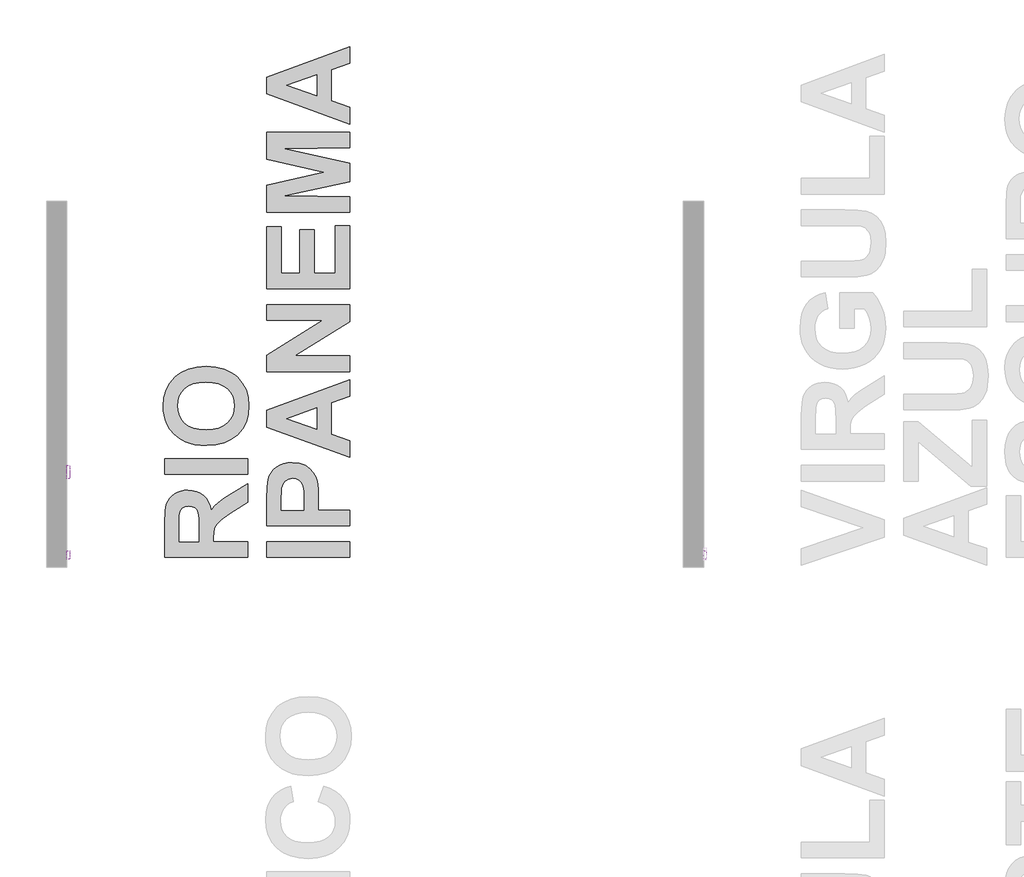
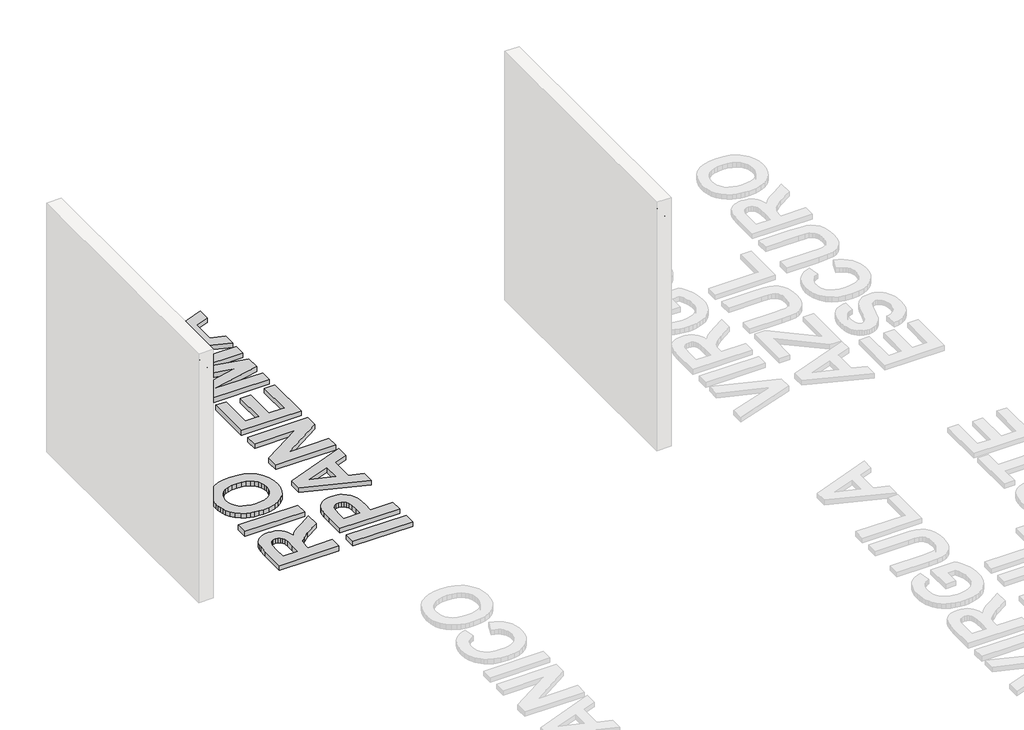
# One storey, part 9 of 12: 4 proxies.
"""IFC4 building model written with IfcOpenShell, lengths in millimetres."""

from ifc_helpers import new_model, si_unit, frame, origin, origin_with_axes, place, context, project, spatial, polyline, outline, extrude, element, save

model = new_model("IFC4")

# Units and contexts
model_context = context("Model", 3, world=origin())
ifc_project = project(units=[si_unit("LENGTHUNIT", "METRE", prefix="MILLI")], contexts=[model_context])

# Site, building, storey
site = spatial("IfcSite", under=ifc_project)
building = spatial("IfcBuilding", under=site)
storey = spatial("IfcBuildingStorey", under=building, Name="PORTOBELLO - SHOWROOM", Elevation=0.0)

# Proxies
placement = place(None, origin())
element("IfcBuildingElementProxy", 1, Name="10mm Arial", ObjectType="10mm Arial", at=placement, inside=storey, context=model_context, shape_type="SweptSolid", body=[
    extrude(outline(polyline([(1635.0884642, 2548.8308244), (1635.0884642, 2649.2871345), (1678.3759123, 2649.2871345), (1698.474532, 2646.5770705), (1709.4619409, 2636.9876132), (1713.5699565, 2621.7940868), (1711.8685023, 2611.8980611), (1706.7641396, 2603.6942926), (1698.1035843, 2597.679422), (1685.7335522, 2594.3500899), (1692.8704629, 2588.9790128), (1703.0485314, 2576.054092), (1719.7994249, 2548.8308244), (1705.2067725, 2548.8308244), (1692.1346989, 2569.6529453), (1682.6923944, 2583.4362574), (1676.0582557, 2589.9477687), (1670.0863047, 2592.3390017), (1662.8022412, 2592.7804601), (1647.645503, 2592.7804601), (1647.645503, 2548.8308244), (1635.0884642, 2548.8308244)]), holes=[polyline([(1647.645503, 2605.3374988), (1675.7516874, 2605.3374988), (1690.0868225, 2607.1155952), (1698.2292773, 2612.8055033), (1701.0129177, 2621.3281029), (1695.7031543, 2632.3890882), (1678.9154725, 2636.7300958), (1647.645503, 2636.7300958), (1647.645503, 2605.3374988)])]), frame((3902.9163978, 0.0, 0.0), z_axis=(1.0, 0.0, 0.0), x_axis=(0.0, 1.0, 0.0)), (0.0, 0.0, 1.0), 20.0),
    extrude(outline(polyline([(3922.9163978, 1746.5321833), (3922.9163978, 1733.9751445), (3902.9163978, 1733.9751445), (3902.9163978, 1746.5321833), (3922.9163978, 1746.5321833)])), frame((0.0, 0.0, 2636.7300958), z_axis=(0.0, 0.0, 1.0), x_axis=(1.0, 0.0, 0.0)), (0.0, 0.0, 1.0), 12.5570388),
    extrude(outline(polyline([(3922.9163978, 1746.5321833), (3922.9163978, 1733.9751445), (3902.9163978, 1733.9751445), (3902.9163978, 1746.5321833), (3922.9163978, 1746.5321833)])), frame((0.0, 0.0, 2548.8308244), z_axis=(0.0, 0.0, 1.0), x_axis=(1.0, 0.0, 0.0)), (0.0, 0.0, 1.0), 73.7726028),
    extrude(outline(polyline([(1762.2284817, 2585.7171258), (1764.9446771, 2603.5042202), (1773.0932633, 2616.0060767), (1783.1609672, 2622.1313119), (1795.215234, 2624.173057), (1808.4068692, 2621.6867878), (1818.9436226, 2614.2279804), (1825.8506071, 2602.3852458), (1828.1529353, 2586.7471954), (1824.0817078, 2564.4044955), (1812.2236449, 2551.7616176), (1795.215234, 2547.2611945), (1781.8641832, 2549.7382666), (1771.3396925, 2557.1694829), (1764.5062844, 2569.2605379), (1762.2284817, 2585.7171258)]), holes=[polyline([(1774.7855205, 2585.7416512), (1776.2386544, 2574.3771633), (1780.598056, 2566.2806937), (1787.1586183, 2561.4338484), (1795.215234, 2559.8182333), (1803.2350615, 2561.4430455), (1809.783361, 2566.3174819), (1814.1427626, 2574.5212504), (1815.5958965, 2586.1340587), (1814.1335656, 2597.1674529), (1809.7465728, 2605.1535578), (1803.1890762, 2610.0004031), (1795.215234, 2611.6160182), (1787.1586183, 2610.0065345), (1780.598056, 2605.1780833), (1776.2386544, 2597.1000078), (1774.7855205, 2585.7416512)])]), frame((3902.9163978, 0.0, 0.0), z_axis=(1.0, 0.0, 0.0), x_axis=(0.0, 1.0, 0.0)), (0.0, 0.0, 1.0), 20.0),
    extrude(outline(polyline([(3922.9163978, 1897.2166485), (3922.9163978, 1884.6596097), (3902.9163978, 1884.6596097), (3902.9163978, 1897.2166485), (3922.9163978, 1897.2166485)])), frame((0.0, 0.0, 2548.8308244), z_axis=(0.0, 0.0, 1.0), x_axis=(1.0, 0.0, 0.0)), (0.0, 0.0, 1.0), 100.4563101),
    extrude(outline(polyline([(1920.7610962, 2520.5774872), (1920.7610962, 2622.6034272), (1933.3181349, 2622.6034272), (1933.3181349, 2610.291643), (1942.00015, 2620.7027035), (1953.7233229, 2624.173057), (1969.6403506, 2619.3170147), (1980.0391483, 2605.6318044), (1983.54629, 2586.2812115), (1979.5854272, 2565.9373372), (1968.0829835, 2552.0804487), (1952.202744, 2547.2611945), (1941.2766488, 2550.4862934), (1933.3181349, 2558.6410109), (1933.3181349, 2520.5774872), (1920.7610962, 2520.5774872)]), holes=[polyline([(1933.3181349, 2585.1285146), (1934.6762326, 2573.8713255), (1938.7505257, 2565.9986508), (1944.7623307, 2561.3633377), (1951.9329639, 2559.8182333), (1959.2200931, 2561.41852), (1965.3851822, 2566.21938), (1969.588234, 2574.3802289), (1970.9892513, 2586.0604823), (1969.6219565, 2597.2563577), (1965.5200723, 2605.239397), (1959.5174644, 2610.0218629), (1952.4479987, 2611.6160182), (1945.3509419, 2609.9206954), (1939.1184077, 2604.8347268), (1934.7682031, 2596.517528), (1933.3181349, 2585.1285146)])]), frame((3902.9163978, 0.0, 0.0), z_axis=(1.0, 0.0, 0.0), x_axis=(0.0, 1.0, 0.0)), (0.0, 0.0, 1.0), 20.0),
    extrude(outline(polyline([(2044.761854, 2558.2486035), (2032.58496, 2549.7382666), (2019.1327417, 2547.2611945), (2008.6389078, 2548.7511166), (2000.8980575, 2553.2208829), (1996.1247886, 2560.0083057), (1994.5336989, 2568.4511975), (1996.9371946, 2578.3840113), (2003.2525022, 2585.5944984), (2012.0448819, 2589.7147768), (2022.9096635, 2591.6032377), (2044.6882776, 2595.9197198), (2044.761854, 2598.7156229), (2041.3037633, 2607.9862492), (2027.4223493, 2611.6160182), (2014.7181577, 2609.2002598), (2008.6603676, 2600.6286093), (1996.1033288, 2602.1982392), (2001.5357196, 2614.4609723), (2012.4740776, 2621.646934), (2029.0410301, 2624.173057), (2044.259082, 2621.9412396), (2052.8552579, 2616.3371705), (2056.7057561, 2607.8145709), (2057.3188928, 2596.827162), (2057.3188928, 2581.20444), (2057.9565549, 2559.3890376), (2060.4581525, 2548.8308244), (2047.9011137, 2548.8308244), (2044.761854, 2558.2486035)]), holes=[polyline([(2044.761854, 2583.362681), (2024.5038188, 2579.5121828), (2013.7003509, 2577.4765691), (2008.8075204, 2574.1656311), (2007.0907377, 2569.3341142), (2010.8308713, 2562.5405601), (2021.8060175, 2559.8182333), (2034.5102091, 2562.8226029), (2042.7017148, 2570.0944037), (2044.6882776, 2579.8064884), (2044.761854, 2583.362681)])]), frame((3902.9163978, 0.0, 0.0), z_axis=(1.0, 0.0, 0.0), x_axis=(0.0, 1.0, 0.0)), (0.0, 0.0, 1.0), 20.0),
    extrude(outline(polyline([(2074.5848211, 2548.8308244), (2074.5848211, 2622.6034272), (2087.1418599, 2622.6034272), (2087.1418599, 2612.3027313), (2096.7435799, 2621.2054756), (2109.8524417, 2624.173057), (2121.7105047, 2621.781824), (2129.8039086, 2615.5033046), (2133.5685677, 2606.2694666), (2134.2307552, 2594.1293607), (2134.2307552, 2548.8308244), (2121.6737165, 2548.8308244), (2121.6737165, 2592.4371035), (2120.226714, 2603.5471398), (2115.1131542, 2609.420989), (2106.4924528, 2611.6160182), (2092.8685563, 2606.6863995), (2088.573534, 2599.5433574), (2087.1418599, 2587.9734687), (2087.1418599, 2548.8308244), (2074.5848211, 2548.8308244)])), frame((3902.9163978, 0.0, 0.0), z_axis=(1.0, 0.0, 0.0), x_axis=(0.0, 1.0, 0.0)), (0.0, 0.0, 1.0), 20.0),
    extrude(outline(polyline([(2203.1473157, 2570.8056422), (2215.4590998, 2569.2360124), (2211.0230561, 2559.9592547), (2203.9443933, 2553.0246791), (2194.3825271, 2548.7020657), (2182.496873, 2547.2611945), (2167.7631991, 2549.7474637), (2156.4263023, 2557.2062711), (2149.1974211, 2569.1532389), (2146.787794, 2585.1039891), (2149.2219465, 2601.5912339), (2156.5244042, 2613.9214121), (2167.7080168, 2621.6101458), (2181.7856345, 2624.173057), (2195.4248595, 2621.6162771), (2206.3233636, 2613.9459375), (2213.4694713, 2601.6402848), (2215.8515072, 2585.1775655), (2215.7779308, 2581.7930512), (2159.3448328, 2581.7930512), (2161.5184022, 2572.3936662), (2166.5675826, 2565.483616), (2173.8547118, 2561.234579), (2182.7421277, 2559.8182333), (2195.0539118, 2562.4424582), (2203.1473157, 2570.8056422)]), holes=[polyline([(2159.3448328, 2594.3500899), (2203.2944685, 2594.3500899), (2198.2667479, 2605.7299063), (2190.9458962, 2610.1444902), (2181.7365836, 2611.6160182), (2166.273277, 2606.9193914), (2161.4080376, 2601.4287526), (2159.3448328, 2594.3500899)])]), frame((3902.9163978, 0.0, 0.0), z_axis=(1.0, 0.0, 0.0), x_axis=(0.0, 1.0, 0.0)), (0.0, 0.0, 1.0), 20.0),
    extrude(outline(polyline([(2228.408546, 2548.8308244), (2228.408546, 2622.6034272), (2240.9655848, 2622.6034272), (2240.9655848, 2610.4633213), (2249.5985489, 2620.4083979), (2261.8858076, 2624.173057), (2274.4673718, 2620.3348215), (2281.3835533, 2609.5804045), (2291.1814771, 2620.5248939), (2303.5545749, 2624.173057), (2312.9938138, 2622.6555438), (2319.9743746, 2618.1030041), (2324.287791, 2610.3928106), (2325.7255965, 2599.402336), (2325.7255965, 2548.8308244), (2313.1685577, 2548.8308244), (2313.1685577, 2594.0067334), (2312.003598, 2604.4913703), (2307.7852178, 2609.6539809), (2300.6115189, 2611.6160182), (2288.2629466, 2606.5882976), (2284.5749296, 2600.0461295), (2283.3455906, 2590.4750662), (2283.3455906, 2548.8308244), (2270.7885519, 2548.8308244), (2270.7885519, 2595.404685), (2267.8822841, 2607.5693163), (2258.3541404, 2611.6160182), (2249.0589887, 2608.9182169), (2242.8785712, 2601.0210168), (2240.9655848, 2586.0359568), (2240.9655848, 2548.8308244), (2228.408546, 2548.8308244)])), frame((3902.9163978, 0.0, 0.0), z_axis=(1.0, 0.0, 0.0), x_axis=(0.0, 1.0, 0.0)), (0.0, 0.0, 1.0), 20.0),
    extrude(outline(polyline([(2391.65005, 2558.2486035), (2379.473156, 2549.7382666), (2366.0209377, 2547.2611945), (2355.5271038, 2548.7511166), (2347.7862534, 2553.2208829), (2343.0129846, 2560.0083057), (2341.4218949, 2568.4511975), (2343.8253906, 2578.3840113), (2350.1406982, 2585.5944984), (2358.9330779, 2589.7147768), (2369.7978595, 2591.6032377), (2391.5764736, 2595.9197198), (2391.65005, 2598.7156229), (2388.1919592, 2607.9862492), (2374.3105453, 2611.6160182), (2361.6063537, 2609.2002598), (2355.5485635, 2600.6286093), (2342.9915248, 2602.1982392), (2348.4239156, 2614.4609723), (2359.3622736, 2621.646934), (2375.9292261, 2624.173057), (2391.1472779, 2621.9412396), (2399.7434539, 2616.3371705), (2403.5939521, 2607.8145709), (2404.2070888, 2596.827162), (2404.2070888, 2581.20444), (2404.8447509, 2559.3890376), (2407.3463485, 2548.8308244), (2394.7893097, 2548.8308244), (2391.65005, 2558.2486035)]), holes=[polyline([(2391.65005, 2583.362681), (2371.3920148, 2579.5121828), (2360.5885469, 2577.4765691), (2355.6957163, 2574.1656311), (2353.9789337, 2569.3341142), (2357.7190673, 2562.5405601), (2368.6942135, 2559.8182333), (2381.3984051, 2562.8226029), (2389.5899108, 2570.0944037), (2391.5764736, 2579.8064884), (2391.65005, 2583.362681)])]), frame((3902.9163978, 0.0, 0.0), z_axis=(1.0, 0.0, 0.0), x_axis=(0.0, 1.0, 0.0)), (0.0, 0.0, 1.0), 20.0),
])
element("IfcBuildingElementProxy", 2, Name="10mm Arial Narrow", ObjectType="10mm Arial Narrow", at=placement, inside=storey, context=model_context, shape_type="SweptSolid", body=[
    extrude(outline(polyline([(1632.2235233, 2398.8308244), (1632.2235233, 2499.5494281), (1663.520408, 2499.5494281), (1679.8161095, 2497.6711074), (1691.2890956, 2488.1906642), (1695.5787741, 2471.1715554), (1693.7924657, 2459.0957299), (1688.4335405, 2449.4693361), (1678.6897516, 2443.1680777), (1663.7488524, 2441.0676582), (1641.970485, 2441.0676582), (1641.970485, 2398.8308244), (1632.2235233, 2398.8308244)]), holes=[polyline([(1641.970485, 2452.4391135), (1664.9418399, 2452.4391135), (1680.8060353, 2456.9699277), (1685.8318124, 2470.6385184), (1683.3569979, 2480.8042949), (1677.3793691, 2486.6042447), (1664.7133955, 2488.1779729), (1641.970485, 2488.1779729), (1641.970485, 2452.4391135)])]), frame((3902.9163978, 0.0, 0.0), z_axis=(1.0, 0.0, 0.0), x_axis=(0.0, 1.0, 0.0)), (0.0, 0.0, 1.0), 20.0),
    extrude(outline(polyline([(1703.7012421, 2435.3819306), (1705.655711, 2451.9727061), (1711.5191176, 2463.9247909), (1720.3776843, 2471.1493455), (1731.3176335, 2473.5575304), (1742.130669, 2471.1493455), (1751.0146185, 2463.9247909), (1756.9541732, 2452.1630765), (1758.9340248, 2436.143412), (1756.9890745, 2418.9815254), (1751.1542234, 2406.8390702), (1742.3051752, 2399.6145156), (1731.3176335, 2397.2063308), (1720.4570053, 2399.6208613), (1711.5825744, 2406.8644529), (1705.6715752, 2418.8228834), (1703.7012421, 2435.3819306)]), holes=[polyline([(1713.4482038, 2435.4073133), (1714.7522406, 2422.8555619), (1718.6643512, 2413.9843038), (1724.505548, 2408.7110453), (1731.5968433, 2406.9532924), (1738.3169165, 2408.7269095), (1744.0089898, 2414.0477606), (1747.8925448, 2422.9348829), (1749.1870632, 2435.4073133), (1747.8830263, 2447.9209906), (1743.9709157, 2456.7795573), (1738.129719, 2462.0528159), (1731.0384236, 2463.8105687), (1724.2707579, 2462.0432974), (1718.5882031, 2456.7414833), (1714.7332036, 2447.873398), (1713.4482038, 2435.4073133)])]), frame((3902.9163978, 0.0, 0.0), z_axis=(1.0, 0.0, 0.0), x_axis=(0.0, 1.0, 0.0)), (0.0, 0.0, 1.0), 20.0),
    extrude(outline(polyline([(1830.4117436, 2406.9532924), (1832.0362372, 2397.2063308), (1824.6752505, 2397.2063308), (1816.4004862, 2399.3257873), (1812.0854251, 2405.1257371), (1810.9178203, 2419.7715623), (1810.9178203, 2462.1860751), (1802.7953522, 2462.1860751), (1802.7953522, 2465.4350624), (1801.1708586, 2460.5615815), (1793.6068103, 2462.1860751), (1787.5276506, 2459.8635569), (1783.6567869, 2453.3782738), (1781.6769353, 2437.9709673), (1781.6769353, 2398.8308244), (1771.9299737, 2398.8308244), (1771.9299737, 2471.9330368), (1781.6769353, 2471.9330368), (1781.6769353, 2462.2368406), (1787.9210826, 2471.3238517), (1794.3175262, 2473.5575304), (1802.7953522, 2471.9330368), (1810.9178203, 2471.9330368), (1810.9178203, 2488.1779729), (1820.6647819, 2496.3004409), (1820.6647819, 2471.9330368), (1830.4117436, 2471.9330368), (1830.4117436, 2462.1860751), (1820.6647819, 2462.1860751), (1820.6647819, 2417.5378836), (1821.5277942, 2409.5423291), (1826.1474479, 2406.9532924), (1830.4117436, 2406.9532924)])), frame((3902.9163978, 0.0, 0.0), z_axis=(1.0, 0.0, 0.0), x_axis=(0.0, 1.0, 0.0)), (0.0, 0.0, 1.0), 20.0),
    extrude(outline(polyline([(1836.909718, 2435.3819306), (1838.8641869, 2451.9727061), (1844.7275935, 2463.9247909), (1853.5861602, 2471.1493455), (1864.5261094, 2473.5575304), (1875.339145, 2471.1493455), (1884.2230944, 2463.9247909), (1890.1626492, 2452.1630765), (1892.1425007, 2436.143412), (1890.1975504, 2418.9815254), (1884.3626993, 2406.8390702), (1875.5136511, 2399.6145156), (1864.5261094, 2397.2063308), (1853.6654812, 2399.6208613), (1844.7910503, 2406.8644529), (1838.8800511, 2418.8228834), (1836.909718, 2435.3819306)]), holes=[polyline([(1846.6566797, 2435.4073133), (1847.9607166, 2422.8555619), (1851.8728271, 2413.9843038), (1857.7140239, 2408.7110453), (1864.8053192, 2406.9532924), (1871.5253924, 2408.7269095), (1877.2174657, 2414.0477606), (1881.1010207, 2422.9348829), (1882.3955391, 2435.4073133), (1881.0915022, 2447.9209906), (1877.1793916, 2456.7795573), (1871.3381949, 2462.0528159), (1864.2468995, 2463.8105687), (1857.4792338, 2462.0432974), (1851.796679, 2456.7414833), (1847.9416795, 2447.873398), (1846.6566797, 2435.4073133)])]), frame((3902.9163978, 0.0, 0.0), z_axis=(1.0, 0.0, 0.0), x_axis=(0.0, 1.0, 0.0)), (0.0, 0.0, 1.0), 20.0),
    extrude(outline(polyline([(1914.8854113, 2398.8308244), (1905.1384496, 2398.8308244), (1905.1384496, 2499.5494281), (1914.8854113, 2499.5494281), (1914.8854113, 2464.140544), (1922.284472, 2471.2223208), (1931.4857053, 2473.5575304), (1944.367432, 2469.3566915), (1953.6448135, 2456.6272611), (1957.1222451, 2435.9403503), (1955.1899861, 2419.4860068), (1949.3932091, 2407.2832677), (1941.0200868, 2399.725565), (1931.3587918, 2397.2063308), (1922.0179535, 2399.8207502), (1914.8854113, 2407.5878602), (1914.8854113, 2398.8308244)]), holes=[polyline([(1914.8854113, 2435.9403503), (1916.9667937, 2418.692797), (1922.855583, 2409.9611439), (1931.3080263, 2406.9532924), (1937.2507539, 2408.7427737), (1942.4891113, 2414.1112174), (1947.3752834, 2435.5342269), (1942.6667902, 2456.9699277), (1937.4220872, 2462.1004085), (1931.1049646, 2463.8105687), (1925.1273358, 2462.0210875), (1919.8350402, 2456.6526438), (1914.8854113, 2435.9403503)])]), frame((3902.9163978, 0.0, 0.0), z_axis=(1.0, 0.0, 0.0), x_axis=(0.0, 1.0, 0.0)), (0.0, 0.0, 1.0), 20.0),
    extrude(outline(polyline([(2009.1060406, 2421.5737349), (2018.8530022, 2419.9492413), (2015.1534719, 2410.0626747), (2009.334485, 2402.9428238), (2001.6308317, 2398.640454), (1992.2773021, 2397.2063308), (1980.6837481, 2399.6208613), (1971.5396259, 2406.8644529), (1965.6000711, 2418.6705872), (1963.6202195, 2434.7727455), (1965.6095896, 2451.4396692), (1971.5776999, 2463.6201984), (1980.5917358, 2471.0731974), (1991.7188824, 2473.5575304), (2002.4018316, 2471.1588641), (2011.1493489, 2463.962865), (2016.9842, 2452.2233604), (2018.9291504, 2436.1941774), (2018.8530022, 2432.9451902), (1973.3671812, 2432.9451902), (1979.3701927, 2413.5020323), (1985.300229, 2408.5904774), (1992.4042157, 2406.9532924), (2002.5826834, 2410.608403), (2009.1060406, 2421.5737349)]), holes=[polyline([(1974.0271317, 2442.6921518), (2009.1060406, 2442.6921518), (2004.8417449, 2456.9572363), (1999.0164123, 2462.0972356), (1991.7950306, 2463.8105687), (1979.5859458, 2458.0994584), (1974.0271317, 2442.6921518)])]), frame((3902.9163978, 0.0, 0.0), z_axis=(1.0, 0.0, 0.0), x_axis=(0.0, 1.0, 0.0)), (0.0, 0.0, 1.0), 20.0),
    extrude(outline(polyline([(3922.9163978, 2041.5959128), (3922.9163978, 2031.8489511), (3902.9163978, 2031.8489511), (3902.9163978, 2041.5959128), (3922.9163978, 2041.5959128)])), frame((0.0, 0.0, 2398.8308244), z_axis=(0.0, 0.0, 1.0), x_axis=(1.0, 0.0, 0.0)), (0.0, 0.0, 1.0), 100.7186038),
    extrude(outline(polyline([(3922.9163978, 2067.5878105), (3922.9163978, 2057.8408488), (3902.9163978, 2057.8408488), (3902.9163978, 2067.5878105), (3922.9163978, 2067.5878105)])), frame((0.0, 0.0, 2398.8308244), z_axis=(0.0, 0.0, 1.0), x_axis=(1.0, 0.0, 0.0)), (0.0, 0.0, 1.0), 100.7186038),
    extrude(outline(polyline([(2078.9592658, 2435.3819306), (2080.9137346, 2451.9727061), (2086.7771413, 2463.9247909), (2095.635708, 2471.1493455), (2106.5756571, 2473.5575304), (2117.3886927, 2471.1493455), (2126.2726421, 2463.9247909), (2132.2121969, 2452.1630765), (2134.1920485, 2436.143412), (2132.2470981, 2418.9815254), (2126.412247, 2406.8390702), (2117.5631988, 2399.6145156), (2106.5756571, 2397.2063308), (2095.7150289, 2399.6208613), (2086.840598, 2406.8644529), (2080.9295988, 2418.8228834), (2078.9592658, 2435.3819306)]), holes=[polyline([(2088.7062274, 2435.4073133), (2090.0102643, 2422.8555619), (2093.9223749, 2413.9843038), (2099.7635716, 2408.7110453), (2106.854867, 2406.9532924), (2113.5749401, 2408.7269095), (2119.2670134, 2414.0477606), (2123.1505685, 2422.9348829), (2124.4450868, 2435.4073133), (2123.14105, 2447.9209906), (2119.2289394, 2456.7795573), (2113.3877426, 2462.0528159), (2106.2964473, 2463.8105687), (2099.5287815, 2462.0432974), (2093.8462267, 2456.7414833), (2089.9912272, 2447.873398), (2088.7062274, 2435.4073133)])]), frame((3902.9163978, 0.0, 0.0), z_axis=(1.0, 0.0, 0.0), x_axis=(0.0, 1.0, 0.0)), (0.0, 0.0, 1.0), 20.0),
])
element("IfcBuildingElementProxy", 3, Name="10mm Arial Narrow", ObjectType="10mm Arial Narrow", at=placement, inside=storey, context=model_context, shape_type="SweptSolid", body=[
    extrude(outline(polyline([(1632.2235233, 2398.8308244), (1632.2235233, 2499.5494281), (1663.520408, 2499.5494281), (1679.8161095, 2497.6711074), (1691.2890956, 2488.1906642), (1695.5787741, 2471.1715554), (1693.7924657, 2459.0957299), (1688.4335405, 2449.4693361), (1678.6897516, 2443.1680777), (1663.7488524, 2441.0676582), (1641.970485, 2441.0676582), (1641.970485, 2398.8308244), (1632.2235233, 2398.8308244)]), holes=[polyline([(1641.970485, 2452.4391135), (1664.9418399, 2452.4391135), (1680.8060353, 2456.9699277), (1685.8318124, 2470.6385184), (1683.3569979, 2480.8042949), (1677.3793691, 2486.6042447), (1664.7133955, 2488.1779729), (1641.970485, 2488.1779729), (1641.970485, 2452.4391135)])]), frame((8602.9163978, 0.0, 0.0), z_axis=(1.0, 0.0, 0.0), x_axis=(0.0, 1.0, 0.0)), (0.0, 0.0, 1.0), 20.0),
    extrude(outline(polyline([(1703.7012421, 2435.3819306), (1705.655711, 2451.9727061), (1711.5191176, 2463.9247909), (1720.3776843, 2471.1493455), (1731.3176335, 2473.5575304), (1742.130669, 2471.1493455), (1751.0146185, 2463.9247909), (1756.9541732, 2452.1630765), (1758.9340248, 2436.143412), (1756.9890745, 2418.9815254), (1751.1542234, 2406.8390702), (1742.3051752, 2399.6145156), (1731.3176335, 2397.2063308), (1720.4570053, 2399.6208613), (1711.5825744, 2406.8644529), (1705.6715752, 2418.8228834), (1703.7012421, 2435.3819306)]), holes=[polyline([(1713.4482038, 2435.4073133), (1714.7522406, 2422.8555619), (1718.6643512, 2413.9843038), (1724.505548, 2408.7110453), (1731.5968433, 2406.9532924), (1738.3169165, 2408.7269095), (1744.0089898, 2414.0477606), (1747.8925448, 2422.9348829), (1749.1870632, 2435.4073133), (1747.8830263, 2447.9209906), (1743.9709157, 2456.7795573), (1738.129719, 2462.0528159), (1731.0384236, 2463.8105687), (1724.2707579, 2462.0432974), (1718.5882031, 2456.7414833), (1714.7332036, 2447.873398), (1713.4482038, 2435.4073133)])]), frame((8602.9163978, 0.0, 0.0), z_axis=(1.0, 0.0, 0.0), x_axis=(0.0, 1.0, 0.0)), (0.0, 0.0, 1.0), 20.0),
    extrude(outline(polyline([(1830.4117436, 2406.9532924), (1832.0362372, 2397.2063308), (1824.6752505, 2397.2063308), (1816.4004862, 2399.3257873), (1812.0854251, 2405.1257371), (1810.9178203, 2419.7715623), (1810.9178203, 2462.1860751), (1802.7953522, 2462.1860751), (1802.7953522, 2465.4350624), (1801.1708586, 2460.5615815), (1793.6068103, 2462.1860751), (1787.5276506, 2459.8635569), (1783.6567869, 2453.3782738), (1781.6769353, 2437.9709673), (1781.6769353, 2398.8308244), (1771.9299737, 2398.8308244), (1771.9299737, 2471.9330368), (1781.6769353, 2471.9330368), (1781.6769353, 2462.2368406), (1787.9210826, 2471.3238517), (1794.3175262, 2473.5575304), (1802.7953522, 2471.9330368), (1810.9178203, 2471.9330368), (1810.9178203, 2488.1779729), (1820.6647819, 2496.3004409), (1820.6647819, 2471.9330368), (1830.4117436, 2471.9330368), (1830.4117436, 2462.1860751), (1820.6647819, 2462.1860751), (1820.6647819, 2417.5378836), (1821.5277942, 2409.5423291), (1826.1474479, 2406.9532924), (1830.4117436, 2406.9532924)])), frame((8602.9163978, 0.0, 0.0), z_axis=(1.0, 0.0, 0.0), x_axis=(0.0, 1.0, 0.0)), (0.0, 0.0, 1.0), 20.0),
    extrude(outline(polyline([(1836.909718, 2435.3819306), (1838.8641869, 2451.9727061), (1844.7275935, 2463.9247909), (1853.5861602, 2471.1493455), (1864.5261094, 2473.5575304), (1875.339145, 2471.1493455), (1884.2230944, 2463.9247909), (1890.1626492, 2452.1630765), (1892.1425007, 2436.143412), (1890.1975504, 2418.9815254), (1884.3626993, 2406.8390702), (1875.5136511, 2399.6145156), (1864.5261094, 2397.2063308), (1853.6654812, 2399.6208613), (1844.7910503, 2406.8644529), (1838.8800511, 2418.8228834), (1836.909718, 2435.3819306)]), holes=[polyline([(1846.6566797, 2435.4073133), (1847.9607166, 2422.8555619), (1851.8728271, 2413.9843038), (1857.7140239, 2408.7110453), (1864.8053192, 2406.9532924), (1871.5253924, 2408.7269095), (1877.2174657, 2414.0477606), (1881.1010207, 2422.9348829), (1882.3955391, 2435.4073133), (1881.0915022, 2447.9209906), (1877.1793916, 2456.7795573), (1871.3381949, 2462.0528159), (1864.2468995, 2463.8105687), (1857.4792338, 2462.0432974), (1851.796679, 2456.7414833), (1847.9416795, 2447.873398), (1846.6566797, 2435.4073133)])]), frame((8602.9163978, 0.0, 0.0), z_axis=(1.0, 0.0, 0.0), x_axis=(0.0, 1.0, 0.0)), (0.0, 0.0, 1.0), 20.0),
    extrude(outline(polyline([(1914.8854113, 2398.8308244), (1905.1384496, 2398.8308244), (1905.1384496, 2499.5494281), (1914.8854113, 2499.5494281), (1914.8854113, 2464.140544), (1922.284472, 2471.2223208), (1931.4857053, 2473.5575304), (1944.367432, 2469.3566915), (1953.6448135, 2456.6272611), (1957.1222451, 2435.9403503), (1955.1899861, 2419.4860068), (1949.3932091, 2407.2832677), (1941.0200868, 2399.725565), (1931.3587918, 2397.2063308), (1922.0179535, 2399.8207502), (1914.8854113, 2407.5878602), (1914.8854113, 2398.8308244)]), holes=[polyline([(1914.8854113, 2435.9403503), (1916.9667937, 2418.692797), (1922.855583, 2409.9611439), (1931.3080263, 2406.9532924), (1937.2507539, 2408.7427737), (1942.4891113, 2414.1112174), (1947.3752834, 2435.5342269), (1942.6667902, 2456.9699277), (1937.4220872, 2462.1004085), (1931.1049646, 2463.8105687), (1925.1273358, 2462.0210875), (1919.8350402, 2456.6526438), (1914.8854113, 2435.9403503)])]), frame((8602.9163978, 0.0, 0.0), z_axis=(1.0, 0.0, 0.0), x_axis=(0.0, 1.0, 0.0)), (0.0, 0.0, 1.0), 20.0),
    extrude(outline(polyline([(2009.1060406, 2421.5737349), (2018.8530022, 2419.9492413), (2015.1534719, 2410.0626747), (2009.334485, 2402.9428238), (2001.6308317, 2398.640454), (1992.2773021, 2397.2063308), (1980.6837481, 2399.6208613), (1971.5396259, 2406.8644529), (1965.6000711, 2418.6705872), (1963.6202195, 2434.7727455), (1965.6095896, 2451.4396692), (1971.5776999, 2463.6201984), (1980.5917358, 2471.0731974), (1991.7188824, 2473.5575304), (2002.4018316, 2471.1588641), (2011.1493489, 2463.962865), (2016.9842, 2452.2233604), (2018.9291504, 2436.1941774), (2018.8530022, 2432.9451902), (1973.3671812, 2432.9451902), (1979.3701927, 2413.5020323), (1985.300229, 2408.5904774), (1992.4042157, 2406.9532924), (2002.5826834, 2410.608403), (2009.1060406, 2421.5737349)]), holes=[polyline([(1974.0271317, 2442.6921518), (2009.1060406, 2442.6921518), (2004.8417449, 2456.9572363), (1999.0164123, 2462.0972356), (1991.7950306, 2463.8105687), (1979.5859458, 2458.0994584), (1974.0271317, 2442.6921518)])]), frame((8602.9163978, 0.0, 0.0), z_axis=(1.0, 0.0, 0.0), x_axis=(0.0, 1.0, 0.0)), (0.0, 0.0, 1.0), 20.0),
    extrude(outline(polyline([(8622.9163978, 2041.5959128), (8622.9163978, 2031.8489511), (8602.9163978, 2031.8489511), (8602.9163978, 2041.5959128), (8622.9163978, 2041.5959128)])), frame((0.0, 0.0, 2398.8308244), z_axis=(0.0, 0.0, 1.0), x_axis=(1.0, 0.0, 0.0)), (0.0, 0.0, 1.0), 100.7186038),
    extrude(outline(polyline([(8622.9163978, 2067.5878105), (8622.9163978, 2057.8408488), (8602.9163978, 2057.8408488), (8602.9163978, 2067.5878105), (8622.9163978, 2067.5878105)])), frame((0.0, 0.0, 2398.8308244), z_axis=(0.0, 0.0, 1.0), x_axis=(1.0, 0.0, 0.0)), (0.0, 0.0, 1.0), 100.7186038),
    extrude(outline(polyline([(2078.9592658, 2435.3819306), (2080.9137346, 2451.9727061), (2086.7771413, 2463.9247909), (2095.635708, 2471.1493455), (2106.5756571, 2473.5575304), (2117.3886927, 2471.1493455), (2126.2726421, 2463.9247909), (2132.2121969, 2452.1630765), (2134.1920485, 2436.143412), (2132.2470981, 2418.9815254), (2126.412247, 2406.8390702), (2117.5631988, 2399.6145156), (2106.5756571, 2397.2063308), (2095.7150289, 2399.6208613), (2086.840598, 2406.8644529), (2080.9295988, 2418.8228834), (2078.9592658, 2435.3819306)]), holes=[polyline([(2088.7062274, 2435.4073133), (2090.0102643, 2422.8555619), (2093.9223749, 2413.9843038), (2099.7635716, 2408.7110453), (2106.854867, 2406.9532924), (2113.5749401, 2408.7269095), (2119.2670134, 2414.0477606), (2123.1505685, 2422.9348829), (2124.4450868, 2435.4073133), (2123.14105, 2447.9209906), (2119.2289394, 2456.7795573), (2113.3877426, 2462.0528159), (2106.2964473, 2463.8105687), (2099.5287815, 2462.0432974), (2093.8462267, 2456.7414833), (2089.9912272, 2447.873398), (2088.7062274, 2435.4073133)])]), frame((8602.9163978, 0.0, 0.0), z_axis=(1.0, 0.0, 0.0), x_axis=(0.0, 1.0, 0.0)), (0.0, 0.0, 1.0), 20.0),
])
element("IfcBuildingElementProxy", 4, Name="600mm Arial", ObjectType="600mm Arial", at=placement, inside=storey, context=model_context, shape_type="SweptSolid", body=[
    extrude(outline(polyline([(5236.2154342, 1646.6476682), (4624.0597942, 1646.6476682), (4624.0597942, 1904.1417072), (4628.1970068, 1988.0246415), (4633.3685226, 2020.002638), (4640.6086446, 2045.3383206), (4650.4962032, 2066.2521201), (4663.6100284, 2084.9644669), (4679.9501204, 2101.4753613), (4699.516479, 2115.784803), (4721.4645816, 2127.342429), (4744.9499054, 2135.5978762), (4769.9724504, 2140.5511444), (4796.5322166, 2142.2022339), (4829.6394064, 2139.8157454), (4859.7290879, 2132.65628), (4886.8012612, 2120.7238377), (4910.8559262, 2104.0184185), (4931.3142527, 2082.5590004), (4947.5974105, 2056.3645615), (4959.7053997, 2025.4351018), (4967.6382201, 1989.7706211), (4992.0060228, 2023.5894874), (5018.6511901, 2050.9558203), (5057.2525223, 2079.2710551), (5117.4888195, 2115.9366273), (5236.2154342, 2190.7860148), (5236.2154342, 2054.5996039), (5096.3852397, 1965.9342036), (5042.6963661, 1923.1007686), (5013.4132513, 1896.322755), (4999.0089193, 1877.0031108), (4989.9563945, 1856.5447843), (4985.1739286, 1829.3872099), (4983.5797733, 1789.969822), (4983.5797733, 1763.2487425), (5236.2154342, 1763.2487425), (5236.2154342, 1646.6476682)]), holes=[polyline([(4876.6954552, 1763.2487425), (4876.6954552, 1859.3535342), (4874.9304975, 1935.2087578), (4869.6356245, 1976.0305206), (4860.0327366, 1996.7924957), (4845.343734, 2012.4683563), (4825.9671558, 2022.3179588), (4802.3015406, 2025.6011596), (4776.0928681, 2021.2741666), (4755.4637393, 2008.2931876), (4740.907583, 1987.4173443), (4732.9178284, 1959.4057581), (4730.9441123, 1864.6673852), (4730.9441123, 1763.2487425), (4876.6954552, 1763.2487425)])]), origin_with_axes(), (0.0, 0.0, 1.0), 50.0),
    extrude(outline(polyline([(5236.2154342, 2258.8033082), (4624.0597942, 2258.8033082), (4624.0597942, 2375.4043824), (5236.2154342, 2375.4043824), (5236.2154342, 2258.8033082)])), origin_with_axes(), (0.0, 0.0, 1.0), 50.0),
    extrude(outline(polyline([(4933.9332221, 2472.5719443), (4889.126071, 2474.2894569), (4848.0765717, 2479.4419946), (4810.7847242, 2488.0295575), (4777.2505285, 2500.0521454), (4733.0127186, 2524.2871018), (4693.5194186, 2555.9994057), (4661.1998174, 2593.1394289), (4638.4831042, 2633.6575431), (4627.9218253, 2662.8267897), (4620.3780546, 2694.1595328), (4615.8517922, 2727.6557724), (4614.343038, 2763.3155085), (4619.5762324, 2826.4174896), (4635.2758155, 2882.8771569), (4661.4417874, 2932.6945104), (4698.074148, 2975.8695501), (4720.0281813, 2994.5510577), (4744.024726, 3010.7416976), (4798.14535, 3035.6503743), (4860.4360199, 3050.5955804), (4930.8967358, 3055.5773157), (5000.8782562, 3050.6335365), (5062.7941099, 3035.8021987), (5116.6442968, 3011.0833023), (5140.5447652, 2995.0160197), (5162.4288169, 2976.4768474), (5198.9615428, 2933.5864783), (5225.056347, 2884.0158393), (5240.7132296, 2827.7649304), (5245.9321904, 2764.8337516), (5240.7369521, 2701.2383415), (5225.1512372, 2644.5129816), (5199.1750457, 2594.657672), (5162.8083777, 2551.6724127), (5117.3322507, 2517.0659578), (5064.0276824, 2492.3470614), (5002.8946729, 2477.5157236), (4933.9332221, 2472.5719443)]), holes=[polyline([(4929.6821413, 2589.1730186), (4978.1046089, 2592.2711836), (5020.2833015, 2601.5656784), (5056.2182192, 2617.0565031), (5085.9093619, 2638.7436576), (5109.1574602, 2665.2037891), (5125.7632447, 2695.0135445), (5135.7267154, 2728.1729239), (5139.0478723, 2764.6819273), (5135.750438, 2801.1529746), (5125.8581349, 2834.1984857), (5109.3709631, 2863.8184608), (5086.2889227, 2890.0128997), (5056.6120135, 2911.4343617), (5020.3402356, 2926.735406), (4977.4735891, 2935.9160326), (4928.0120738, 2938.9762415), (4879.2385125, 2935.9966893), (4837.0693088, 2927.0580327), (4801.5044629, 2912.1602717), (4772.5439748, 2891.3034064), (4750.0929541, 2865.5122508), (4734.0565108, 2835.8116191), (4724.4346448, 2802.2015113), (4721.2273561, 2764.6819273), (4724.4726009, 2727.1243873), (4734.2083351, 2693.4004112), (4750.4345588, 2663.5099991), (4773.151272, 2637.4531509), (4802.4059198, 2616.3305931), (4838.2459473, 2601.2430517), (4880.6713544, 2592.1905269), (4929.6821413, 2589.1730186)])]), origin_with_axes(), (0.0, 0.0, 1.0), 50.0),
    extrude(outline(polyline([(5991.6835332, 1646.6476682), (5379.5278933, 1646.6476682), (5379.5278933, 1763.2487425), (5991.6835332, 1763.2487425), (5991.6835332, 1646.6476682)])), origin_with_axes(), (0.0, 0.0, 1.0), 50.0),
    extrude(outline(polyline([(5991.6835332, 1879.8498167), (5379.5278933, 1879.8498167), (5379.5278933, 2077.0696025), (5381.805258, 2169.7203911), (5388.6373522, 2223.2764183), (5397.4858631, 2248.398598), (5410.3672074, 2271.3857483), (5427.281385, 2292.2378691), (5448.228396, 2310.9549605), (5472.8571467, 2326.3983401), (5500.8165433, 2337.4293255), (5532.1065858, 2344.0479168), (5566.7272742, 2346.2541139), (5618.2906074, 2341.0731091), (5640.7273945, 2334.5968531), (5660.934262, 2325.5300948), (5695.0188208, 2301.9973259), (5720.9048666, 2272.8470573), (5739.0288943, 2240.6413244), (5749.8273987, 2207.9421625), (5756.3178882, 2153.0956285), (5758.4813847, 2078.1323727), (5758.4813847, 1996.450891), (5991.6835332, 1996.450891), (5991.6835332, 1879.8498167)]), holes=[polyline([(5486.4122114, 1996.450891), (5651.5970666, 1996.450891), (5651.5970666, 2068.8710895), (5649.3197019, 2134.098611), (5642.4876077, 2173.4021307), (5630.7781573, 2196.8969435), (5613.8687242, 2214.6983445), (5592.7841224, 2225.9143658), (5568.549166, 2229.6530396), (5539.5886779, 2224.3961227), (5516.1697772, 2208.6253719), (5499.3931903, 2184.8458885), (5490.3596436, 2155.5627736), (5486.4122114, 2060.3689278), (5486.4122114, 1996.450891)])]), origin_with_axes(), (0.0, 0.0, 1.0), 50.0),
    extrude(outline(polyline([(5991.6835332, 2958.4097538), (5991.6835332, 2835.8875313), (5855.6489466, 2787.9110476), (5855.6489466, 2556.6826151), (5991.6835332, 2509.3134287), (5991.6835332, 2385.1211386), (5379.5278933, 2608.606531), (5379.5278933, 2732.7988211), (5991.6835332, 2958.4097538)]), holes=[polyline([(5748.7646285, 2750.562266), (5525.2792361, 2671.7654462), (5748.7646285, 2594.0313967), (5748.7646285, 2750.562266)])]), origin_with_axes(), (0.0, 0.0, 1.0), 50.0),
    extrude(outline(polyline([(5991.6835332, 3016.710291), (5379.5278933, 3016.710291), (5379.5278933, 3138.9288649), (5791.5790855, 3395.6637824), (5379.5278933, 3395.6637824), (5379.5278933, 3512.2648567), (5991.6835332, 3512.2648567), (5991.6835332, 3386.2506748), (5585.7053137, 3133.3113653), (5991.6835332, 3133.3113653), (5991.6835332, 3016.710291)])), origin_with_axes(), (0.0, 0.0, 1.0), 50.0),
    extrude(outline(polyline([(5991.6835332, 3628.865931), (5379.5278933, 3628.865931), (5379.5278933, 4085.5534719), (5486.4122114, 4085.5534719), (5486.4122114, 3745.4670052), (5622.446798, 3745.4670052), (5622.446798, 4066.1199595), (5729.3311161, 4066.1199595), (5729.3311161, 3745.4670052), (5884.7992152, 3745.4670052), (5884.7992152, 4095.2702281), (5991.6835332, 4095.2702281), (5991.6835332, 3628.865931)])), origin_with_axes(), (0.0, 0.0, 1.0), 50.0),
    extrude(outline(polyline([(5991.6835332, 4192.43779), (5379.5278933, 4192.43779), (5379.5278933, 4392.2385891), (5797.0447608, 4488.7988538), (5379.5278933, 4585.3591184), (5379.5278933, 4785.1599176), (5991.6835332, 4785.1599176), (5991.6835332, 4668.5588433), (5509.7931559, 4663.7004652), (5991.6835332, 4557.1197957), (5991.6835332, 4420.6297361), (5509.7931559, 4313.8972424), (5991.6835332, 4309.0388643), (5991.6835332, 4192.43779)])), origin_with_axes(), (0.0, 0.0, 1.0), 50.0),
    extrude(outline(polyline([(5991.6835332, 5416.7490699), (5991.6835332, 5294.2268473), (5855.6489466, 5246.2503637), (5855.6489466, 5015.0219312), (5991.6835332, 4967.6527448), (5991.6835332, 4843.4604547), (5379.5278933, 5066.9458471), (5379.5278933, 5191.1381371), (5991.6835332, 5416.7490699)]), holes=[polyline([(5748.7646285, 5208.9015821), (5525.2792361, 5130.1047623), (5748.7646285, 5052.3707128), (5748.7646285, 5208.9015821)])]), origin_with_axes(), (0.0, 0.0, 1.0), 50.0),
])

save(model, "model.ifc")
